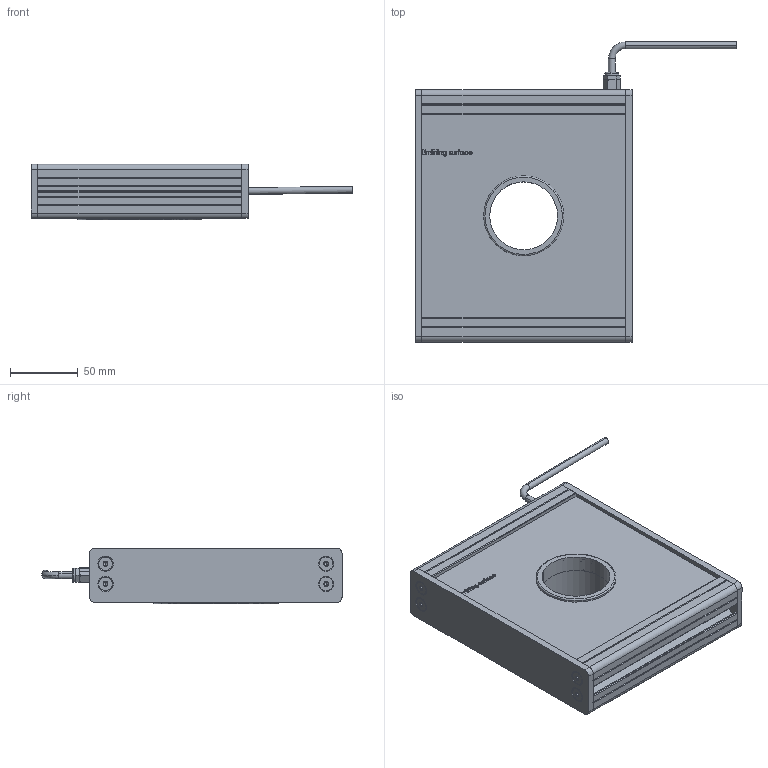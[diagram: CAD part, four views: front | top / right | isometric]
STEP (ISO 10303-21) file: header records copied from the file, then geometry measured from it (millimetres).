
FILE_DESCRIPTION (( 'STEP AP214' ), '1' );
FILE_NAME ('EFFI-FD-150T-150-M12 Ø50.STEP', '2021-07-02T12:08:58', ( '' ), ( '' ), 'SwSTEP 2.0', 'SolidWorks 2021', '' );
FILE_SCHEMA (( 'AUTOMOTIVE_DESIGN' ));
Length unit declared in the file: millimetre
Products named in the file (11): Pièce2^EFFI-FD-XXXT-YYY-M12 Ø50; 001039; cordon_Avec cable; profile modif_lg 99.5 mm; 003776; 000590; 001040; Assemblage Ø50; EFFI-FD-150T-150-M12 Ø50; bord fin modif_lg 436.5 mm
Assembly tree (20 placements, depth 3):
  EFFI-FD-150T-150-M12 Ø50
    profile modif_lg 99.5 mm
    bord fin modif_lg 436.5 mm  x2
    Pièce2^EFFI-FD-XXXT-YYY-M12 Ø50
    profile modif_lg 99.5 mm
    003776  x8
    cordon_Avec cable
    Assemblage Ø50
      001039
      001040
      000590  x3
Bounding box: 237.13 x 221.15 x 41 mm (x, y, z)
Volume: 982507.4 mm3; surface area: 182550.7 mm2
Topology: 18 solids, 24 shells, 997 faces, 2503 edges, 1569 vertices
Faces by surface type: plane 391, cylinder 231, bspline 180, cone 152, torus 35, sphere 8
Entity records: 25439 total; most frequent: CARTESIAN_POINT 8620, ORIENTED_EDGE 3290, DIRECTION 3029, EDGE_CURVE 1649, VERTEX_POINT 1066, AXIS2_PLACEMENT_3D 1021, VECTOR 987, LINE 987
